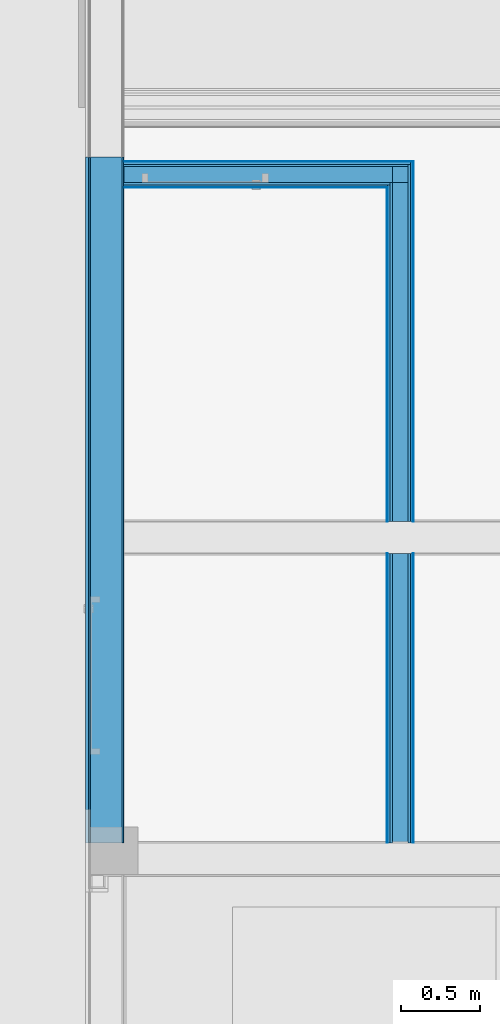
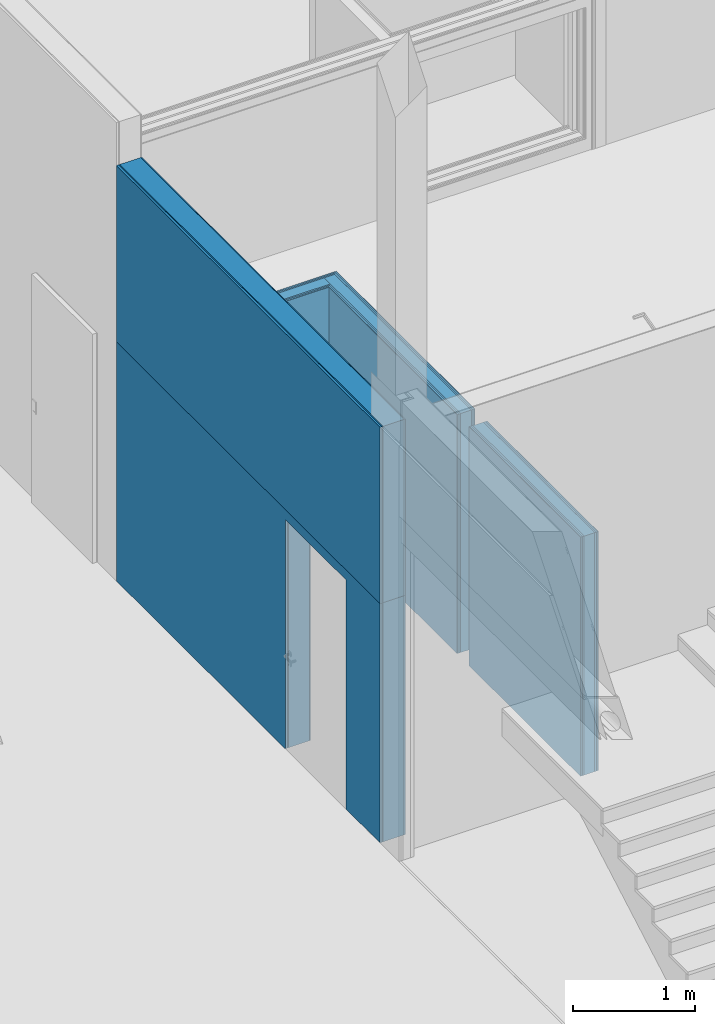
# One storey, part 175 of 260: 22 building element parts, 2 openings, 4 elements without a shape of their own.
"""IFC2X3 building model written with IfcOpenShell, lengths in millimetres."""

import ifcopenshell
import ifcopenshell.guid

model = None  # the IFC model being written
_history = None  # IfcOwnerHistory: only IFC2X3 demands one
_inside = {}  # id of a spatial element -> (the spatial element, [elements in it])
_under = {}  # id of a project, library or spatial element -> (it, [spatial elements below it])
_declared = {}  # id of a project -> (the project, [libraries it declares])
_typed = {}  # id of a type object -> (the type object, [elements of that type])
_made_of = {}  # id of a material, layer set ... -> (it, [elements and type objects made of it])


def new_model(schema):
    """Start an empty IFC model of exactly this schema.

    Asked for "IFC4X3", IfcOpenShell would pick the latest addendum, in which some entities
    have other attributes; the version numbers below select the first issue.
    IFC2X3 requires an IfcOwnerHistory on every rooted entity: one is made here for all.
    """
    global model, _history
    if schema == "IFC4X3":
        model = ifcopenshell.file(schema_version=(4, 3, 0, 0))
    else:
        model = ifcopenshell.file(schema=schema)
    _inside.clear()
    _under.clear()
    _declared.clear()
    _typed.clear()
    _made_of.clear()
    _history = None
    if model.schema == "IFC2X3":
        org = make("IfcOrganization", Name="unknown")
        user = make(
            "IfcPersonAndOrganization",
            ThePerson=make("IfcPerson", FamilyName="unknown"),
            TheOrganization=org,
        )
        app = make(
            "IfcApplication",
            ApplicationDeveloper=org,
            Version="unknown",
            ApplicationFullName="unknown",
            ApplicationIdentifier="unknown",
        )
        _history = make(
            "IfcOwnerHistory",
            OwningUser=user,
            OwningApplication=app,
            ChangeAction="ADDED",
            CreationDate=0,
        )
    return model


def make(cls, **values):
    """One entity of the class cls with the attributes given. An attribute that is None is left unset."""
    return model.create_entity(
        cls, **{name: value for name, value in values.items() if value is not None}
    )


def entity(cls, *values):
    """Any entity or typed value of the class cls, its attributes in the order of the schema. None: left unset."""
    e = model.create_entity(cls)
    for i, value in enumerate(values):
        if value is not None:
            e[i] = value
    return e


def rooted(cls, **values):
    """An entity with a GlobalId (a new one), such as an element, a storey or a relation."""
    return make(cls, GlobalId=ifcopenshell.guid.new(), OwnerHistory=_history, **values)


def si_unit(unit_type, name, prefix=None):
    """IfcSIUnit, for example si_unit("LENGTHUNIT", "METRE", prefix="MILLI")."""
    return make("IfcSIUnit", UnitType=unit_type, Prefix=prefix, Name=name)


def converted_unit(unit_type, name, factor, base, dimensions=None, offset=None):
    """IfcConversionBasedUnit, such as the inch: factor (a typed value) times the base unit."""
    return make(
        "IfcConversionBasedUnit"
        if offset is None
        else "IfcConversionBasedUnitWithOffset",
        ConversionOffset=offset,
        Dimensions=None
        if dimensions is None
        else entity("IfcDimensionalExponents", *dimensions),
        UnitType=unit_type,
        Name=name,
        ConversionFactor=make(
            "IfcMeasureWithUnit", ValueComponent=factor, UnitComponent=base
        ),
    )


def derived_unit(unit_type, elements):
    """IfcDerivedUnit: a product of units, each with its exponent."""
    return make(
        "IfcDerivedUnit",
        Elements=[
            make("IfcDerivedUnitElement", Unit=unit, Exponent=power)
            for unit, power in elements
        ],
        UnitType=unit_type,
    )


def money_unit(currency):
    """IfcMonetaryUnit."""
    return make("IfcMonetaryUnit", Currency=currency)


def assignment(units):
    """IfcUnitAssignment: the units of a project."""
    return None if units is None else make("IfcUnitAssignment", Units=units)


def point(xyz):
    """IfcCartesianPoint."""
    return None if xyz is None else make("IfcCartesianPoint", Coordinates=xyz)


def direction(xyz):
    """IfcDirection."""
    return None if xyz is None else make("IfcDirection", DirectionRatios=xyz)


def frame(location, z_axis=None, x_axis=None):
    """IfcAxis2Placement3D, a coordinate frame: its origin and axes. An axis left out is left unset."""
    return make(
        "IfcAxis2Placement3D",
        Location=point(location),
        Axis=direction(z_axis),
        RefDirection=direction(x_axis),
    )


def origin_with_axes():
    """The frame at (0, 0, 0) with the z axis (0, 0, 1) and the x axis (1, 0, 0) written out."""
    return frame((0.0, 0.0, 0.0), z_axis=(0.0, 0.0, 1.0), x_axis=(1.0, 0.0, 0.0))


def place(relative_to, where):
    """IfcLocalPlacement: puts the frame where relative to a parent placement (None: the world)."""
    return make(
        "IfcLocalPlacement", PlacementRelTo=relative_to, RelativePlacement=where
    )


def context(
    kind, dimensions, precision=None, world=None, true_north=None, identifier=None
):
    """IfcGeometricRepresentationContext, for example the 3D "Model" context."""
    return make(
        "IfcGeometricRepresentationContext",
        ContextIdentifier=identifier,
        ContextType=kind,
        CoordinateSpaceDimension=dimensions,
        Precision=precision,
        WorldCoordinateSystem=world,
        TrueNorth=true_north,
    )


def subcontext(parent, identifier, kind, view, scale=None):
    """IfcGeometricRepresentationSubContext, for example "Body" below "Model"."""
    return make(
        "IfcGeometricRepresentationSubContext",
        ContextIdentifier=identifier,
        ContextType=kind,
        ParentContext=parent,
        TargetScale=scale,
        TargetView=view,
    )


def project(units=None, contexts=None):
    """IfcProject with its units and contexts."""
    return rooted(
        "IfcProject",
        Name="project",
        RepresentationContexts=contexts,
        UnitsInContext=assignment(units),
    )


def spatial(cls, under=None, at=None, **own):
    """A site, building, storey or space (cls), placed at a placement, below another one or the project."""
    s = rooted(cls, ObjectPlacement=at, **own)
    if under is not None:
        _under.setdefault(under.id(), (under, []))[1].append(s)
    return s


def faces_of(points, faces, orient=None, outer=None):
    """IfcFace entities. A face is a list of loops; a loop is a list of indices into points, from 0.

    orient and outer hold one flag for each loop. By default every Orientation is true, the
    first loop of a face is its IfcFaceOuterBound and the others are IfcFaceBound.
    """
    made = []
    for i, loops in enumerate(faces):
        bounds = []
        for j, loop in enumerate(loops):
            is_outer = j == 0 if outer is None else outer[i][j]
            bounds.append(
                make(
                    "IfcFaceOuterBound" if is_outer else "IfcFaceBound",
                    Bound=make("IfcPolyLoop", Polygon=[points[k] for k in loop]),
                    Orientation=True if orient is None else orient[i][j],
                )
            )
        made.append(make("IfcFace", Bounds=bounds))
    return made


def faceted_brep(points, faces, orient=None, outer=None, voids=None):
    """IfcFacetedBrep: a solid bounded by flat faces; with voids (closed shells), ...WithVoids."""
    shared = [point(p) for p in points]
    hull = make("IfcClosedShell", CfsFaces=faces_of(shared, faces, orient, outer))
    if voids is None:
        return make("IfcFacetedBrep", Outer=hull)
    return make(
        "IfcFacetedBrepWithVoids",
        Outer=hull,
        Voids=[
            make(cls, CfsFaces=faces_of(shared, fs, o, b)) for cls, fs, o, b in voids
        ],
    )


def shape(context_of_items, identifier, shape_type, items):
    """IfcShapeRepresentation: the items that make up one representation, for example the "Body"."""
    return make(
        "IfcShapeRepresentation",
        ContextOfItems=context_of_items,
        RepresentationIdentifier=identifier,
        RepresentationType=shape_type,
        Items=items,
    )


def material(Name=None, Category=None):
    """IfcMaterial."""
    return make("IfcMaterial", Name=Name, Category=Category)


def made_of(thing, what):
    """Note that an element or type object is made of a material, layer set ...; save() writes the relation."""
    if what is not None:
        _made_of.setdefault(what.id(), (what, []))[1].append(thing)
    return thing


def type_object(cls, material=None, **own):
    """A type object (cls), such as IfcWallType, which elements share."""
    return made_of(rooted(cls, **own), material)


def element(
    cls,
    number,
    at=None,
    inside=None,
    cuts=None,
    type_object=None,
    material=None,
    context=None,
    identifier="Body",
    shape_type=None,
    held_by="IfcProductDefinitionShape",
    body=None,
    shapes=None,
    **own,
):
    """One element of the class cls, such as IfcWall. Its Tag is "e" and its number.

    at: its placement. inside: the storey or other place that contains it. cuts: it is an
    opening in that element (IfcRelVoidsElement). A single representation is given by context,
    identifier, shape_type and body (its items); several are given by shapes. held_by: the class
    of the entity that holds the representations. save() writes the other relations.
    """
    e = rooted(cls, Tag="e%d" % number, ObjectPlacement=at, **own)
    if body is not None:
        shapes = [shape(context, identifier, shape_type, body)]
    if shapes is not None:
        e.Representation = make(held_by, Representations=shapes)
    if inside is not None:
        _inside.setdefault(inside.id(), (inside, []))[1].append(e)
    if cuts is not None:
        rooted(
            "IfcRelVoidsElement", RelatingBuildingElement=cuts, RelatedOpeningElement=e
        )
    if type_object is not None:
        _typed.setdefault(type_object.id(), (type_object, []))[1].append(e)
    return made_of(e, material)


def aggregate(whole, parts):
    """IfcRelAggregates: a whole, such as a stair, and the parts it consists of."""
    return rooted("IfcRelAggregates", RelatingObject=whole, RelatedObjects=parts)


def save(model, path):
    """Write the relations noted so far, then the file.

    IfcRelAggregates (storeys below a building ...), IfcRelContainedInSpatialStructure (elements
    in a storey), IfcRelDefinesByType, IfcRelAssociatesMaterial and IfcRelDeclares: one each for
    every whole, place, type object, material and project.
    """
    for whole, parts in _under.values():
        aggregate(whole, parts)
    for where, things in _inside.values():
        rooted(
            "IfcRelContainedInSpatialStructure",
            RelatedElements=things,
            RelatingStructure=where,
        )
    for kind, things in _typed.values():
        rooted("IfcRelDefinesByType", RelatedObjects=things, RelatingType=kind)
    for what, things in _made_of.values():
        rooted("IfcRelAssociatesMaterial", RelatedObjects=things, RelatingMaterial=what)
    for by, libraries in _declared.values():
        rooted("IfcRelDeclares", RelatingContext=by, RelatedDefinitions=libraries)
    model.write(path)


model = new_model("IFC2X3")

# Units and contexts
model_context = context("Model", 3, precision=0.01, world=origin_with_axes(), true_north=direction((0.0, 1.0)))
body_context = subcontext(model_context, "Body", "Model", "MODEL_VIEW")
ifc_project = project(units=[si_unit("LENGTHUNIT", "METRE", prefix="MILLI"), si_unit("AREAUNIT", "SQUARE_METRE"), si_unit("VOLUMEUNIT", "CUBIC_METRE"), converted_unit("PLANEANGLEUNIT", "DEGREE", entity("IfcPlaneAngleMeasure", 0.0174532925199), si_unit("PLANEANGLEUNIT", "RADIAN"), dimensions=[0, 0, 0, 0, 0, 0, 0]), money_unit("EUR"), converted_unit("TIMEUNIT", "Year", entity("IfcTimeMeasure", 31556926.0), si_unit("TIMEUNIT", "SECOND"), dimensions=[0, 0, 1, 0, 0, 0, 0]), si_unit("MASSUNIT", "GRAM", prefix="KILO"), si_unit("THERMODYNAMICTEMPERATUREUNIT", "DEGREE_CELSIUS"), si_unit("LUMINOUSINTENSITYUNIT", "LUMEN"), si_unit("ENERGYUNIT", "JOULE", prefix="MEGA"), derived_unit("THERMALCONDUCTANCEUNIT", [(si_unit("POWERUNIT", "WATT"), 1), (si_unit("LENGTHUNIT", "METRE"), -1), (si_unit("THERMODYNAMICTEMPERATUREUNIT", "KELVIN"), -1)]), derived_unit("SPECIFICHEATCAPACITYUNIT", [(si_unit("ENERGYUNIT", "JOULE"), 1), (si_unit("MASSUNIT", "GRAM", prefix="KILO"), -1), (si_unit("THERMODYNAMICTEMPERATUREUNIT", "KELVIN"), -1)]), derived_unit("MASSDENSITYUNIT", [(si_unit("MASSUNIT", "GRAM", prefix="KILO"), 1), (si_unit("VOLUMEUNIT", "CUBIC_METRE"), -1)])], contexts=[model_context])

# Site, building, storey
site_placement = place(None, origin_with_axes())
site = spatial("IfcSite", under=ifc_project, at=site_placement, Name="Kolde pst 67a", CompositionType="ELEMENT")
building_placement = place(site_placement, origin_with_axes())
building = spatial("IfcBuilding", under=site, at=building_placement, Name="Riigigümnaasium", CompositionType="ELEMENT")
storey_placement = place(building_placement, origin_with_axes())
storey = spatial("IfcBuildingStorey", under=building, at=storey_placement, Name="1. korrus", CompositionType="ELEMENT", Elevation=0.0)

# Wall, building element parts
wall_type_1 = type_object("IfcWallType", Name="SS-PK-10/9_vill100+2värv 170", PredefinedType="NOTDEFINED")
wall_1_placement = place(storey_placement, frame((54663.7188174, 38578.8677168, 0.0), z_axis=(0.0, 0.0, 1.0), x_axis=(0.0, -1.0, 0.0)))
wall_1 = element("IfcWall", 1, at=wall_1_placement, inside=storey, type_object=wall_type_1, Name="Sisesein")
ifc_material_1 = material(Name="_VIIMISTLUSKIHT - viimistlus vastavalt SA osale")
building_element_part_1_placement = place(wall_1_placement, origin_with_axes())
building_element_part_1 = element("IfcBuildingElementPart", 2, at=building_element_part_1_placement, material=ifc_material_1, Name="_VIIMISTLUSKIHT - viimistlus vastavalt SA osale", context=body_context, shape_type="Brep", body=[
    faceted_brep([(2308.86801704, -4.99999940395, 2400.0), (2308.86801704, 0.0, 2400.0), (2308.86801704, 0.0, 0.0), (2308.86801704, -5.0, 0.0), (4138.86777225, 0.0, 2400.0), (4138.86777225, -5.0, 2400.0), (4138.8677439, 0.0, 0.0), (4138.8677439, -5.0, 0.0)], [[[0, 1, 2, 3]], [[4, 1, 0, 5]], [[1, 4, 6, 2]], [[7, 3, 2, 6]], [[5, 0, 3, 7]], [[4, 5, 7, 6]]]),
    faceted_brep([(0.0, -4.99999940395, 2400.0), (0.0, 0.0, 2400.0), (-170.0, 0.0, 2400.0), (-170.0, -4.99999940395, 2400.0), (2108.86801704, 0.0, 2400.0), (2108.86801704, -4.99999940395, 2400.0), (2108.86801704, 0.0, 0.0), (-170.0, 0.0, 0.0), (-170.0, -5.0, 0.0), (2108.86801704, -5.0, 0.0)], [[[0, 1, 2, 3]], [[4, 1, 0, 5]], [[1, 4, 6, 7, 2]], [[7, 8, 3, 2]], [[5, 0, 3, 8, 9]], [[4, 5, 9, 6]], [[7, 6, 9, 8]]]),
])
ifc_material_2 = material(Name="_PLAATMATERJAL - tuletõkkekipsplaat, Knauf Red GKF või samaväärne")
building_element_part_2_placement = place(wall_1_placement, origin_with_axes())
building_element_part_2 = element("IfcBuildingElementPart", 3, at=building_element_part_2_placement, material=ifc_material_2, Name="_PLAATMATERJAL - tuletõkkekipsplaat, Knauf Red GKF või samaväärne", context=body_context, shape_type="Brep", body=[
    faceted_brep([(2308.86801704, -20.000000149, 2400.0), (2308.86801704, -4.99999940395, 2400.0), (2308.86801704, -5.0, 0.0), (2308.86801704, -20.0, 0.0), (4138.86777225, -5.0, 2400.0), (4138.86777225, -20.0, 2400.0), (4138.8677439, -5.0, 0.0), (4138.8677439, -20.0, 0.0)], [[[0, 1, 2, 3]], [[4, 1, 0, 5]], [[1, 4, 6, 2]], [[7, 3, 2, 6]], [[5, 0, 3, 7]], [[4, 5, 7, 6]]]),
    faceted_brep([(0.0, -20.000000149, 2400.0), (0.0, -4.99999940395, 2400.0), (-165.0, -4.99999940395, 2400.0), (-165.0, -20.000000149, 2400.0), (2108.86801704, -4.99999940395, 2400.0), (2108.86801704, -20.000000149, 2400.0), (2108.86801704, -5.0, 0.0), (-165.000000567, -5.0, 0.0), (-165.000000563, -20.0, 0.0), (2108.86801704, -20.0, 0.0)], [[[0, 1, 2, 3]], [[4, 1, 0, 5]], [[1, 4, 6, 7, 2]], [[8, 3, 2, 7]], [[5, 0, 3, 8, 9]], [[4, 5, 9, 6]], [[9, 8, 7, 6]]]),
])
ifc_material_3 = material(Name="_PLAATMATERJAL - OSB3 plaat")
building_element_part_3_placement = place(wall_1_placement, origin_with_axes())
building_element_part_3 = element("IfcBuildingElementPart", 4, at=building_element_part_3_placement, material=ifc_material_3, Name="_PLAATMATERJAL - OSB3 plaat", context=body_context, shape_type="Brep", body=[
    faceted_brep([(2308.86801704, -35.0000008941, 2400.0), (2308.86801704, -20.000000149, 2400.0), (2308.86801704, -20.0, 0.0), (2308.86801704, -35.0, 0.0), (4138.86777225, -20.0, 2400.0), (4138.86777225, -35.0, 2400.0), (4138.8677439, -20.0, 0.0), (4138.8677439, -35.0, 0.0)], [[[0, 1, 2, 3]], [[4, 1, 0, 5]], [[1, 4, 6, 2]], [[7, 3, 2, 6]], [[5, 0, 3, 7]], [[4, 5, 7, 6]]]),
    faceted_brep([(0.0, -35.0000008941, 2400.0), (0.0, -20.000000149, 2400.0), (-150.0, -20.000000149, 2400.0), (-150.0, -35.0000008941, 2400.0), (2108.86801704, -20.000000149, 2400.0), (2108.86801704, -35.0000008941, 2400.0), (2108.86801704, -20.0, 0.0), (-149.999999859, -20.0, 0.0), (-149.999999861, -35.0, 0.0), (2108.86801704, -35.0, 0.0)], [[[0, 1, 2, 3]], [[4, 1, 0, 5]], [[1, 4, 6, 7, 2]], [[8, 3, 2, 7]], [[5, 0, 3, 8, 9]], [[4, 5, 9, 6]], [[9, 8, 7, 6]]]),
])
ifc_material_4 = material(Name="_KARKASS - puitpruss 100x50mm vertikaalne, samm 600mm, vahel mineraalvill, helineeldetegur αw = 1.0, ISOVER ACOUSTIC 100mm või samaväärne")
building_element_part_4_placement = place(wall_1_placement, origin_with_axes())
building_element_part_4 = element("IfcBuildingElementPart", 5, at=building_element_part_4_placement, material=ifc_material_4, Name="_KARKASS - puitpruss 100x50mm vertikaalne, samm 600mm, vahel mineraalvill, helineeldetegur αw = 1.0, ISOVER ACOUSTIC 100mm või samaväärne", context=body_context, shape_type="Brep", body=[
    faceted_brep([(2308.86801704, -134.999999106, 2400.0), (2308.86801704, -35.0000008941, 2400.0), (2308.86801704, -35.0, 0.0), (2308.86801704, -135.0, 0.0), (4138.86777225, -35.0, 2400.0), (4138.86777225, -135.0, 2400.0), (4138.8677439, -35.0, 0.0), (4138.8677439, -135.0, 0.0)], [[[0, 1, 2, 3]], [[4, 1, 0, 5]], [[1, 4, 6, 2]], [[7, 3, 2, 6]], [[5, 0, 3, 7]], [[4, 5, 7, 6]]]),
    faceted_brep([(0.0, -134.999999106, 2400.0), (0.0, -35.0000008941, 2400.0), (-135.0, -35.0000008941, 2400.0), (-135.0, -134.999999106, 2400.0), (2108.86801704, -35.0000008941, 2400.0), (2108.86801704, -134.999999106, 2400.0), (2108.86801704, -35.0, 0.0), (-134.999999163, -35.0, 0.0), (-134.99999921, -135.0, 0.0), (2108.86801704, -135.0, 0.0)], [[[0, 1, 2, 3]], [[4, 1, 0, 5]], [[1, 4, 6, 7, 2]], [[8, 3, 2, 7]], [[5, 0, 3, 8, 9]], [[4, 5, 9, 6]], [[9, 8, 7, 6]]]),
])
building_element_part_5_placement = place(wall_1_placement, origin_with_axes())
building_element_part_5 = element("IfcBuildingElementPart", 6, at=building_element_part_5_placement, material=ifc_material_3, Name="_PLAATMATERJAL - OSB3 plaat", context=body_context, shape_type="Brep", body=[
    faceted_brep([(2308.86801704, -149.999999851, 2400.0), (2308.86801704, -134.999999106, 2400.0), (2308.86801704, -135.0, 0.0), (2308.86801704, -150.0, 0.0), (4138.86777225, -135.0, 2400.0), (4138.86777225, -150.0, 2400.0), (4138.8677439, -135.0, 0.0), (4138.8677439, -150.0, 0.0)], [[[0, 1, 2, 3]], [[4, 1, 0, 5]], [[1, 4, 6, 2]], [[7, 3, 2, 6]], [[5, 0, 3, 7]], [[4, 5, 7, 6]]]),
    faceted_brep([(0.0, -149.999999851, 2400.0), (0.0, -134.999999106, 2400.0), (-35.0, -134.999999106, 2400.0), (-35.0, -149.999999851, 2400.0), (2108.86801704, -134.999999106, 2400.0), (2108.86801704, -149.999999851, 2400.0), (2108.86801704, -135.0, 0.0), (-35.0000007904, -135.0, 0.0), (-35.0000007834, -150.0, 0.0), (2108.86801704, -150.0, 0.0)], [[[0, 1, 2, 3]], [[4, 1, 0, 5]], [[1, 4, 6, 7, 2]], [[8, 3, 2, 7]], [[5, 0, 3, 8, 9]], [[4, 5, 9, 6]], [[9, 8, 7, 6]]]),
])
building_element_part_6_placement = place(wall_1_placement, origin_with_axes())
building_element_part_6 = element("IfcBuildingElementPart", 7, at=building_element_part_6_placement, material=ifc_material_2, Name="_PLAATMATERJAL - tuletõkkekipsplaat, Knauf Red GKF või samaväärne", context=body_context, shape_type="Brep", body=[
    faceted_brep([(2308.86801704, -165.000000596, 2400.0), (2308.86801704, -149.999999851, 2400.0), (2308.86801704, -150.0, 0.0), (2308.86801704, -165.0, 0.0), (4138.86777225, -150.0, 2400.0), (4138.86777225, -165.0, 2400.0), (4138.8677439, -150.0, 0.0), (4138.8677439, -165.0, 0.0)], [[[0, 1, 2, 3]], [[4, 1, 0, 5]], [[1, 4, 6, 2]], [[7, 3, 2, 6]], [[5, 0, 3, 7]], [[4, 5, 7, 6]]]),
    faceted_brep([(0.0, -165.000000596, 2400.0), (0.0, -149.999999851, 2400.0), (-20.0, -149.999999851, 2400.0), (-20.0, -165.000000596, 2400.0), (2108.86801704, -149.999999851, 2400.0), (2108.86801704, -165.000000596, 2400.0), (2108.86801704, -150.0, 0.0), (-20.0000001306, -150.0, 0.0), (-20.0000001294, -165.0, 0.0), (2108.86801704, -165.0, 0.0)], [[[0, 1, 2, 3]], [[4, 1, 0, 5]], [[1, 4, 6, 7, 2]], [[8, 3, 2, 7]], [[5, 0, 3, 8, 9]], [[4, 5, 9, 6]], [[9, 8, 7, 6]]]),
])
building_element_part_7_placement = place(wall_1_placement, origin_with_axes())
building_element_part_7 = element("IfcBuildingElementPart", 8, at=building_element_part_7_placement, material=ifc_material_1, Name="_VIIMISTLUSKIHT - viimistlus vastavalt SA osale", context=body_context, shape_type="Brep", body=[
    faceted_brep([(2308.86801704, -170.0, 2400.0), (2308.86801704, -165.000000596, 2400.0), (2308.86801704, -165.0, 0.0), (2308.86801704, -170.0, 0.0), (4138.86777225, -165.0, 2400.0), (4138.86777225, -170.0, 2400.0), (4138.8677439, -165.0, 0.0), (4138.8677439, -170.0, 0.0)], [[[0, 1, 2, 3]], [[4, 1, 0, 5]], [[1, 4, 6, 2]], [[7, 3, 2, 6]], [[5, 0, 3, 7]], [[4, 5, 7, 6]]]),
    faceted_brep([(0.0, -170.0, 2400.0), (0.0, -165.000000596, 2400.0), (-5.0, -165.000000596, 2400.0), (-5.0, -170.0, 2400.0), (2108.86801704, -165.000000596, 2400.0), (2108.86801704, -170.0, 2400.0), (2108.86801704, -165.0, 0.0), (-4.99999948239, -165.0, 0.0), (-4.99999948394, -170.0, 0.0), (2108.86801704, -170.0, 0.0)], [[[0, 1, 2, 3]], [[4, 1, 0, 5]], [[1, 4, 6, 7, 2]], [[8, 3, 2, 7]], [[5, 0, 3, 8, 9]], [[4, 5, 9, 6]], [[9, 8, 7, 6]]]),
])
aggregate(wall_1, [building_element_part_1, building_element_part_2, building_element_part_3, building_element_part_4, building_element_part_5, building_element_part_6, building_element_part_7])

# Wall, opening, building element parts
wall_type_2 = type_object("IfcWallType", Name="SS-RB-20/3_+krohv+dold 240", PredefinedType="NOTDEFINED")
wall_2_placement = place(storey_placement, frame((52629.9941222, 38773.8677641, 0.0), z_axis=(0.0, 0.0, 1.0), x_axis=(0.0, -1.0, 0.0)))
wall_2 = element("IfcWall", 9, at=wall_2_placement, inside=storey, type_object=wall_type_2, Name="Sisesein")
opening_1_placement = place(wall_2_placement, frame((3276.2877893, 0.0, 0.0), z_axis=(0.0, 0.0, 1.0), x_axis=(1.0, 0.0, 0.0)))
element("IfcOpeningElement", 10, at=opening_1_placement, cuts=wall_2, Name="Siseuks", context=body_context, shape_type="Brep", body=[
    faceted_brep([(500.0, -480.0, 2300.0), (500.0, -480.0, 0.0), (500.0, 240.0, 0.0), (500.0, 240.0, 2300.0), (-500.0, -480.0, 2300.0), (-500.0, -480.0, 0.0), (-500.0, 240.0, 0.0), (-500.0, 240.0, 2300.0)], [[[0, 1, 2, 3]], [[0, 4, 5, 1]], [[1, 5, 6, 2]], [[3, 2, 6, 7]], [[4, 0, 3, 7]], [[5, 4, 7, 6]]]),
])
building_element_part_8_placement = place(wall_2_placement, origin_with_axes())
building_element_part_8 = element("IfcBuildingElementPart", 11, at=building_element_part_8_placement, material=ifc_material_1, Name="_VIIMISTLUSKIHT - viimistlus vastavalt SA osale", context=body_context, shape_type="Brep", body=[
    faceted_brep([(3776.2877893, 200.0, 0.0), (3776.2877893, 200.0, 2300.0), (2776.2877893, 200.0, 2300.0), (2776.2877893, 200.0, 0.0), (0.0, 200.0, 0.0), (0.0, 200.0, 2400.0), (4333.86779117, 200.0, 2400.0), (4333.86779117, 200.0, 0.0), (3776.2877893, 190.0, 0.0), (3776.2877893, 190.0, 2300.0), (2776.2877893, 190.0, 2300.0), (2776.2877893, 190.0, 0.0), (0.0, 190.0, 0.0), (0.0, 190.0, 2400.0), (4333.86779117, 190.0, 2400.0), (4333.86779117, 190.0, 0.0)], [[[0, 1, 2, 3, 4, 5, 6, 7]], [[1, 0, 8, 9]], [[2, 1, 9, 10]], [[3, 2, 10, 11]], [[3, 11, 12, 4]], [[5, 4, 12, 13]], [[6, 5, 13, 14]], [[15, 7, 6, 14]], [[8, 0, 7, 15]], [[9, 8, 15, 14, 13, 12, 11, 10]]]),
])
ifc_material_5 = material(Name="_KANDETARIND - monteeritav raudbetoon vastavalt EK osale")
building_element_part_9_placement = place(wall_2_placement, origin_with_axes())
building_element_part_9 = element("IfcBuildingElementPart", 12, at=building_element_part_9_placement, material=ifc_material_5, Name="_KANDETARIND - monteeritav raudbetoon vastavalt EK osale", context=body_context, shape_type="Brep", body=[
    faceted_brep([(3776.2877893, 190.0, 0.0), (3776.2877893, 190.0, 2300.0), (2776.2877893, 190.0, 2300.0), (2776.2877893, 190.0, 0.0), (0.0, 190.0, 0.0), (0.0, 190.0, 2400.0), (4333.86779117, 190.0, 2400.0), (4333.86779117, 190.0, 0.0), (3776.2877893, -10.0, 0.0), (3776.2877893, -10.0, 2300.0), (2776.2877893, -10.0, 2300.0), (2776.2877893, -10.0, 0.0), (0.0, -10.0, 0.0), (0.0, -10.0, 2400.0), (4333.86779117, -10.0, 2400.0), (4333.86779117, -10.0, 0.0)], [[[0, 1, 2, 3, 4, 5, 6, 7]], [[1, 0, 8, 9]], [[2, 1, 9, 10]], [[3, 2, 10, 11]], [[3, 11, 12, 4]], [[5, 4, 12, 13]], [[6, 5, 13, 14]], [[15, 7, 6, 14]], [[8, 0, 7, 15]], [[9, 8, 15, 14, 13, 12, 11, 10]]]),
])
ifc_material_6 = material(Name="_KARKASS - eriprofiilkinnitus vastavalt sisemisele plaatviimistlusele")
building_element_part_10_placement = place(wall_2_placement, origin_with_axes())
building_element_part_10 = element("IfcBuildingElementPart", 13, at=building_element_part_10_placement, material=ifc_material_6, Name="_KARKASS - eriprofiilkinnitus vastavalt sisemisele plaatviimistlusele", context=body_context, shape_type="Brep", body=[
    faceted_brep([(3776.2877893, -10.0, 0.0), (3776.2877893, -10.0, 2300.0), (2776.2877893, -10.0, 2300.0), (2776.2877893, -10.0, 0.0), (0.0, -10.0, 0.0), (0.0, -10.0, 2400.0), (4333.86779117, -10.0, 2400.0), (4333.86779117, -10.0, 0.0), (3776.2877893, -20.0, 0.0), (3776.2877893, -20.0, 2300.0), (2776.2877893, -20.0, 2300.0), (2776.2877893, -20.0, 0.0), (0.0, -20.0, 0.0), (0.0, -20.0, 2400.0), (4333.86779117, -20.0, 2400.0), (4333.86779117, -20.0, 0.0)], [[[0, 1, 2, 3, 4, 5, 6, 7]], [[1, 0, 8, 9]], [[2, 1, 9, 10]], [[3, 2, 10, 11]], [[3, 11, 12, 4]], [[5, 4, 12, 13]], [[6, 5, 13, 14]], [[15, 7, 6, 14]], [[8, 0, 7, 15]], [[9, 8, 15, 14, 13, 12, 11, 10]]]),
])
building_element_part_11_placement = place(wall_2_placement, origin_with_axes())
building_element_part_11 = element("IfcBuildingElementPart", 14, at=building_element_part_11_placement, material=ifc_material_1, Name="_VIIMISTLUSKIHT - viimistlus vastavalt SA osale", context=body_context, shape_type="Brep", body=[
    faceted_brep([(3776.2877893, -20.0, 0.0), (3776.2877893, -20.0, 2300.0), (2776.2877893, -20.0, 2300.0), (2776.2877893, -20.0, 0.0), (0.0, -20.0, 0.0), (0.0, -20.0, 2400.0), (4333.86779117, -20.0, 2400.0), (4333.86779117, -20.0, 0.0), (3776.2877893, -40.0, 0.0), (3776.2877893, -40.0, 2300.0), (2776.2877893, -40.0, 2300.0), (2776.2877893, -40.0, 0.0), (0.0, -40.0, 0.0), (0.0, -40.0, 2400.0), (4333.86779117, -40.0, 2400.0), (4333.86779117, -40.0, 0.0)], [[[0, 1, 2, 3, 4, 5, 6, 7]], [[1, 0, 8, 9]], [[2, 1, 9, 10]], [[3, 2, 10, 11]], [[3, 11, 12, 4]], [[5, 4, 12, 13]], [[6, 5, 13, 14]], [[15, 7, 6, 14]], [[8, 0, 7, 15]], [[9, 8, 15, 14, 13, 12, 11, 10]]]),
])
aggregate(wall_2, [building_element_part_8, building_element_part_9, building_element_part_10, building_element_part_11])

wall_3_placement = place(storey_placement, frame((54663.7188174, 38578.8677168, -115.0), z_axis=(0.0, 0.0, 1.0), x_axis=(-1.0, 0.0, 0.0)))
wall_3 = element("IfcWall", 15, at=wall_3_placement, inside=storey, type_object=wall_type_1, Name="Sisesein")
opening_2_placement = place(wall_3_placement, frame((1318.7246952, 0.0, 115.0), z_axis=(0.0, 0.0, 1.0), x_axis=(1.0, 0.0, 0.0)))
element("IfcOpeningElement", 16, at=opening_2_placement, cuts=wall_3, Name="Siseuks", context=body_context, shape_type="Brep", body=[
    faceted_brep([(400.0, -170.0, 2090.0), (400.0, -170.0, 0.0), (400.0, 340.0, 0.0), (400.0, 340.0, 2090.0), (-400.0, -170.0, 2090.0), (-400.0, -170.0, 0.0), (-400.0, 340.0, 0.0), (-400.0, 340.0, 2090.0)], [[[0, 1, 2, 3]], [[0, 4, 5, 1]], [[1, 5, 6, 2]], [[3, 2, 6, 7]], [[4, 0, 3, 7]], [[5, 4, 7, 6]]]),
])
building_element_part_12_placement = place(wall_3_placement, origin_with_axes())
building_element_part_12 = element("IfcBuildingElementPart", 17, at=building_element_part_12_placement, material=ifc_material_1, Name="_VIIMISTLUSKIHT - viimistlus vastavalt SA osale", context=body_context, shape_type="Brep", body=[
    faceted_brep([(1718.7246952, -4.99999940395, 2205.0), (1718.7246952, -4.99999995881, 115.0), (1833.7246952, -5.0, 115.0), (1833.7246952, -5.0, 2515.0), (170.0, -5.0, 2515.0), (170.0, -4.99999940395, 115.0), (918.724695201, -4.99999967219, 115.0), (918.724695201, -4.99999940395, 2205.0), (1718.7246952, 0.0, 2205.0), (1718.7246952, 0.0, 115.0), (1833.7246952, 0.0, 115.0), (1833.7246952, 0.0, 2515.0), (170.0, 0.0, 2515.0), (170.0, 0.0, 115.0), (918.724695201, 0.0, 115.0), (918.724695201, 0.0, 2205.0)], [[[0, 1, 2, 3, 4, 5, 6, 7]], [[1, 0, 8, 9]], [[1, 9, 10, 2]], [[10, 11, 3, 2]], [[12, 4, 3, 11]], [[5, 4, 12, 13]], [[14, 6, 5, 13]], [[7, 6, 14, 15]], [[0, 7, 15, 8]], [[15, 14, 13, 12, 11, 10, 9, 8]]]),
])
building_element_part_13_placement = place(wall_3_placement, origin_with_axes())
building_element_part_13 = element("IfcBuildingElementPart", 18, at=building_element_part_13_placement, material=ifc_material_2, Name="_PLAATMATERJAL - tuletõkkekipsplaat, Knauf Red GKF või samaväärne", context=body_context, shape_type="Brep", body=[
    faceted_brep([(1718.7246952, -20.000000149, 2205.0), (1718.7246952, -20.0000000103, 115.0), (1833.7246952, -20.0, 115.0), (1833.7246952, -20.0, 2515.0), (165.000000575, -20.0, 2515.0), (165.0, -20.000000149, 115.0), (918.724695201, -20.0000000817, 115.0), (918.724695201, -20.000000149, 2205.0), (1718.7246952, -5.0, 2205.0), (1718.7246952, -4.99999995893, 115.0), (1833.7246952, -5.0, 115.0), (1833.7246952, -5.0, 2515.0), (165.000000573, -5.0, 2515.0), (165.0, -4.99999940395, 115.0), (918.724695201, -4.99999967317, 115.0), (918.724695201, -5.0, 2205.0)], [[[0, 1, 2, 3, 4, 5, 6, 7]], [[1, 0, 8, 9]], [[1, 9, 10, 2]], [[10, 11, 3, 2]], [[12, 4, 3, 11]], [[5, 4, 12, 13]], [[14, 6, 5, 13]], [[7, 6, 14, 15]], [[0, 7, 15, 8]], [[15, 14, 13, 12, 11, 10, 9, 8]]]),
])
building_element_part_14_placement = place(wall_3_placement, origin_with_axes())
building_element_part_14 = element("IfcBuildingElementPart", 19, at=building_element_part_14_placement, material=ifc_material_3, Name="_PLAATMATERJAL - OSB3 plaat", context=body_context, shape_type="Brep", body=[
    faceted_brep([(1718.7246952, -35.0000008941, 2205.0), (1718.7246952, -35.0000000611, 115.0), (1833.7246952, -35.0, 115.0), (1833.7246952, -35.0, 2515.0), (149.999999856, -35.0, 2515.0), (150.0, -35.0000008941, 115.0), (918.724695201, -35.0000004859, 115.0), (918.724695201, -35.0000008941, 2205.0), (1718.7246952, -20.0, 2205.0), (1718.7246952, -20.0000000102, 115.0), (1833.7246952, -20.0, 115.0), (1833.7246952, -20.0, 2515.0), (149.999999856, -20.0, 2515.0), (150.0, -20.000000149, 115.0), (918.724695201, -20.000000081, 115.0), (918.724695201, -20.0, 2205.0)], [[[0, 1, 2, 3, 4, 5, 6, 7]], [[1, 0, 8, 9]], [[1, 9, 10, 2]], [[10, 11, 3, 2]], [[12, 4, 3, 11]], [[5, 4, 12, 13]], [[14, 6, 5, 13]], [[7, 6, 14, 15]], [[0, 7, 15, 8]], [[15, 14, 13, 12, 11, 10, 9, 8]]]),
])
building_element_part_15_placement = place(wall_3_placement, origin_with_axes())
building_element_part_15 = element("IfcBuildingElementPart", 20, at=building_element_part_15_placement, material=ifc_material_4, Name="_KARKASS - puitpruss 100x50mm vertikaalne, samm 600mm, vahel mineraalvill, helineeldetegur αw = 1.0, ISOVER ACOUSTIC 100mm või samaväärne", context=body_context, shape_type="Brep", body=[
    faceted_brep([(135.0, -35.0000008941, 115.0), (134.999999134, -35.0, 2515.0), (1833.7246952, -35.0, 2515.0), (1833.7246952, -35.0, 14.9), (0.0, -35.0000008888, 14.9), (0.0, -35.0000008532, 115.0), (1718.7246952, -35.0, 115.0), (1718.7246952, -35.0, 2205.0), (918.724695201, -35.0, 2205.0), (918.724695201, -35.0, 115.0), (135.0, -134.999999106, 115.0), (134.999999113, -135.0, 2515.0), (1833.7246952, -135.0, 2515.0), (1833.7246952, -135.0, 14.9), (0.0, -134.999999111, 14.9), (0.0, -134.999999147, 115.0), (1718.7246952, -134.999999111, 115.0), (1718.7246952, -134.999999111, 2205.0), (918.724695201, -134.999999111, 2205.0), (918.724695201, -134.999999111, 115.0)], [[[0, 1, 2, 3, 4, 5], [6, 7, 8, 9]], [[10, 11, 1, 0]], [[1, 11, 12, 2]], [[3, 2, 12, 13]], [[14, 4, 3, 13]], [[14, 15, 5, 4]], [[15, 10, 0, 5]], [[16, 17, 7, 6]], [[17, 18, 8, 7]], [[18, 19, 9, 8]], [[19, 16, 6, 9]], [[11, 10, 15, 14, 13, 12], [16, 19, 18, 17]]]),
])
building_element_part_16_placement = place(wall_3_placement, origin_with_axes())
building_element_part_16 = element("IfcBuildingElementPart", 21, at=building_element_part_16_placement, material=ifc_material_3, Name="_PLAATMATERJAL - OSB3 plaat", context=body_context, shape_type="Brep", body=[
    faceted_brep([(1718.7246952, -149.999999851, 2205.0), (1718.7246952, -149.99999999, 115.0), (1833.7246952, -150.0, 115.0), (1833.7246952, -150.0, 2515.0), (35.0000008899, -150.0, 2515.0), (35.0, -149.999999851, 115.0), (918.724695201, -149.999999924, 115.0), (918.724695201, -149.999999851, 2205.0), (1718.7246952, -135.0, 2205.0), (1718.7246952, -134.999999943, 115.0), (1833.7246952, -135.0, 115.0), (1833.7246952, -135.0, 2515.0), (35.0000008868, -135.0, 2515.0), (35.0, -134.999999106, 115.0), (918.724695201, -134.999999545, 115.0), (918.724695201, -135.0, 2205.0)], [[[0, 1, 2, 3, 4, 5, 6, 7]], [[1, 0, 8, 9]], [[1, 9, 10, 2]], [[10, 11, 3, 2]], [[12, 4, 3, 11]], [[5, 4, 12, 13]], [[14, 6, 5, 13]], [[7, 6, 14, 15]], [[0, 7, 15, 8]], [[15, 14, 13, 12, 11, 10, 9, 8]]]),
])
building_element_part_17_placement = place(wall_3_placement, origin_with_axes())
building_element_part_17 = element("IfcBuildingElementPart", 22, at=building_element_part_17_placement, material=ifc_material_2, Name="_PLAATMATERJAL - tuletõkkekipsplaat, Knauf Red GKF või samaväärne", context=body_context, shape_type="Brep", body=[
    faceted_brep([(1718.7246952, -165.000000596, 2205.0), (1718.7246952, -165.000000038, 115.0), (1833.7246952, -165.0, 115.0), (1833.7246952, -165.0, 2515.0), (20.0000001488, -165.0, 2515.0), (20.0, -165.000000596, 115.0), (918.724695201, -165.000000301, 115.0), (918.724695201, -165.000000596, 2205.0), (1718.7246952, -150.0, 2205.0), (1718.7246952, -149.999999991, 115.0), (1833.7246952, -150.0, 115.0), (1833.7246952, -150.0, 2515.0), (20.0000001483, -150.0, 2515.0), (20.0, -149.999999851, 115.0), (918.724695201, -149.999999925, 115.0), (918.724695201, -150.0, 2205.0)], [[[0, 1, 2, 3, 4, 5, 6, 7]], [[1, 0, 8, 9]], [[1, 9, 10, 2]], [[10, 11, 3, 2]], [[12, 4, 3, 11]], [[5, 4, 12, 13]], [[14, 6, 5, 13]], [[7, 6, 14, 15]], [[0, 7, 15, 8]], [[15, 14, 13, 12, 11, 10, 9, 8]]]),
])
building_element_part_18_placement = place(wall_3_placement, origin_with_axes())
building_element_part_18 = element("IfcBuildingElementPart", 23, at=building_element_part_18_placement, material=ifc_material_1, Name="_VIIMISTLUSKIHT - viimistlus vastavalt SA osale", context=body_context, shape_type="Brep", body=[
    faceted_brep([(1718.7246952, -170.0, 2205.0), (1718.7246952, -170.0, 115.0), (1833.7246952, -170.0, 115.0), (1833.7246952, -170.0, 2515.0), (4.99999940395, -170.0, 2515.0), (5.0, -170.0, 115.0), (918.724695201, -170.0, 115.0), (918.724695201, -170.0, 2205.0), (1718.7246952, -165.0, 2205.0), (1718.7246952, -165.000000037, 115.0), (1833.7246952, -165.0, 115.0), (1833.7246952, -165.0, 2515.0), (4.99999940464, -165.0, 2515.0), (5.0, -165.000000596, 115.0), (918.724695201, -165.000000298, 115.0), (918.724695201, -165.0, 2205.0)], [[[0, 1, 2, 3, 4, 5, 6, 7]], [[1, 0, 8, 9]], [[1, 9, 10, 2]], [[10, 11, 3, 2]], [[12, 4, 3, 11]], [[5, 4, 12, 13]], [[14, 6, 5, 13]], [[7, 6, 14, 15]], [[0, 7, 15, 8]], [[15, 14, 13, 12, 11, 10, 9, 8]]]),
])
aggregate(wall_3, [building_element_part_12, building_element_part_13, building_element_part_14, building_element_part_15, building_element_part_16, building_element_part_17, building_element_part_18])

# Wall, building element parts
wall_4_placement = place(storey_placement, frame((52629.9941222, 38773.8677641, 2400.0), z_axis=(0.0, 0.0, 1.0), x_axis=(0.0, -1.0, 0.0)))
wall_4 = element("IfcWall", 24, at=wall_4_placement, inside=storey, type_object=wall_type_2, Name="Sisesein")
building_element_part_19_placement = place(wall_4_placement, origin_with_axes())
building_element_part_19 = element("IfcBuildingElementPart", 25, at=building_element_part_19_placement, material=ifc_material_1, Name="_VIIMISTLUSKIHT - viimistlus vastavalt SA osale", context=body_context, shape_type="Brep", body=[
    faceted_brep([(4333.86779117, 190.0, 1770.0), (4333.86779117, 200.0, 1770.0), (0.0, 200.0, 1770.0), (0.0, 190.0, 1770.0), (4333.86779117, 190.0, 0.0), (4333.86779117, 200.0, 0.0), (0.0, 200.0, 0.0), (0.0, 190.0, 0.0)], [[[0, 1, 2, 3]], [[0, 4, 5, 1]], [[1, 5, 6, 2]], [[3, 2, 6, 7]], [[4, 0, 3, 7]], [[5, 4, 7, 6]]]),
])
building_element_part_20_placement = place(wall_4_placement, origin_with_axes())
building_element_part_20 = element("IfcBuildingElementPart", 26, at=building_element_part_20_placement, material=ifc_material_5, Name="_KANDETARIND - monteeritav raudbetoon vastavalt EK osale", context=body_context, shape_type="Brep", body=[
    faceted_brep([(4333.86779117, -10.0, 1770.0), (4333.86779117, 190.0, 1770.0), (0.0, 190.0, 1770.0), (0.0, -10.0, 1770.0), (4333.86779117, -10.0, 0.0), (4333.86779117, 190.0, 0.0), (0.0, 190.0, 0.0), (0.0, -10.0, 0.0)], [[[0, 1, 2, 3]], [[0, 4, 5, 1]], [[1, 5, 6, 2]], [[3, 2, 6, 7]], [[4, 0, 3, 7]], [[5, 4, 7, 6]]]),
])
building_element_part_21_placement = place(wall_4_placement, origin_with_axes())
building_element_part_21 = element("IfcBuildingElementPart", 27, at=building_element_part_21_placement, material=ifc_material_6, Name="_KARKASS - eriprofiilkinnitus vastavalt sisemisele plaatviimistlusele", context=body_context, shape_type="Brep", body=[
    faceted_brep([(4333.86779117, -20.0, 1770.0), (4333.86779117, -10.0, 1770.0), (0.0, -10.0, 1770.0), (0.0, -20.0, 1770.0), (4333.86779117, -20.0, 0.0), (4333.86779117, -10.0, 0.0), (0.0, -10.0, 0.0), (0.0, -20.0, 0.0)], [[[0, 1, 2, 3]], [[0, 4, 5, 1]], [[1, 5, 6, 2]], [[3, 2, 6, 7]], [[4, 0, 3, 7]], [[5, 4, 7, 6]]]),
])
building_element_part_22_placement = place(wall_4_placement, origin_with_axes())
building_element_part_22 = element("IfcBuildingElementPart", 28, at=building_element_part_22_placement, material=ifc_material_1, Name="_VIIMISTLUSKIHT - viimistlus vastavalt SA osale", context=body_context, shape_type="Brep", body=[
    faceted_brep([(4333.86779117, -40.0, 1770.0), (4333.86779117, -20.0, 1770.0), (0.0, -20.0, 1770.0), (0.0, -40.0, 1770.0), (4333.86779117, -40.0, 0.0), (4333.86779117, -20.0, 0.0), (0.0, -20.0, 0.0), (0.0, -40.0, 0.0)], [[[0, 1, 2, 3]], [[0, 4, 5, 1]], [[1, 5, 6, 2]], [[3, 2, 6, 7]], [[4, 0, 3, 7]], [[5, 4, 7, 6]]]),
])
aggregate(wall_4, [building_element_part_19, building_element_part_20, building_element_part_21, building_element_part_22])

save(model, "model.ifc")
